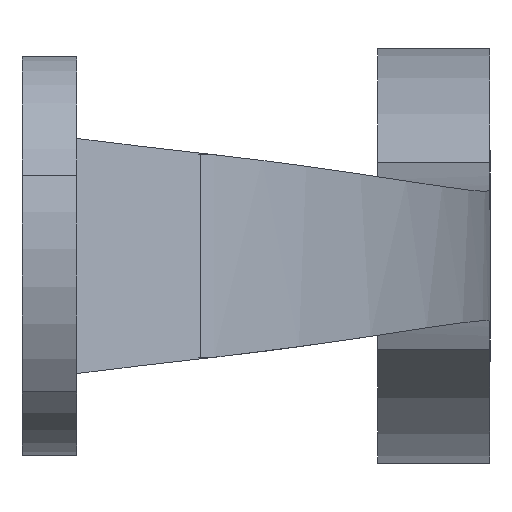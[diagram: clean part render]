
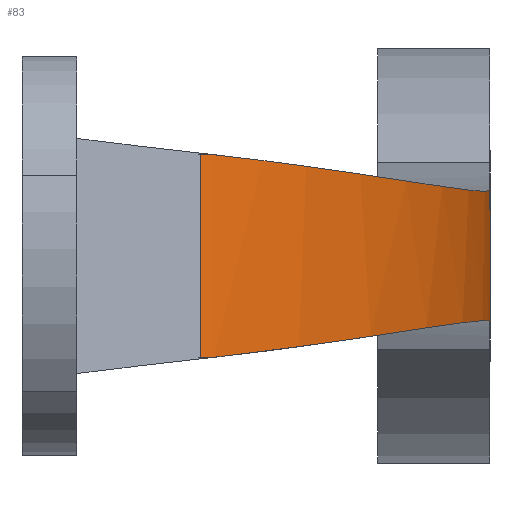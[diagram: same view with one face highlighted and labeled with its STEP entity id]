
A CAD part, left-side view. The second image highlights one B-rep face of the part: STEP entity #83.
In plain terms, the highlighted cylindrical face has radius 35.3 mm (diameter 70.6 mm), a partial arc.
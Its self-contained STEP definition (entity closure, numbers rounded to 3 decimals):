
#83 = ADVANCED_FACE( '', ( #186 ), #187, .T. );
#186 = FACE_OUTER_BOUND( '', #314, .T. );
#187 = CYLINDRICAL_SURFACE( '', #315, 35.3 );
#314 = EDGE_LOOP( '', ( #430, #431, #432, #433, #434, #435 ) );
#315 = AXIS2_PLACEMENT_3D( '', #436, #437, #438 );
#430 = ORIENTED_EDGE( '', *, *, #751, .T. );
#431 = ORIENTED_EDGE( '', *, *, #752, .T. );
#432 = ORIENTED_EDGE( '', *, *, #753, .T. );
#433 = ORIENTED_EDGE( '', *, *, #754, .F. );
#434 = ORIENTED_EDGE( '', *, *, #755, .T. );
#435 = ORIENTED_EDGE( '', *, *, #756, .T. );
#436 = CARTESIAN_POINT( '', ( 27.539, 9.57, 11.4 ) );
#437 = DIRECTION( '', ( 0., 0., 1. ) );
#438 = DIRECTION( '', ( -1., 0., 0. ) );
#751 = EDGE_CURVE( '', #875, #876, #877, .T. );
#752 = EDGE_CURVE( '', #876, #878, #879, .T. );
#753 = EDGE_CURVE( '', #878, #880, #881, .T. );
#754 = EDGE_CURVE( '', #882, #880, #883, .T. );
#755 = EDGE_CURVE( '', #882, #884, #885, .T. );
#756 = EDGE_CURVE( '', #884, #875, #886, .T. );
#875 = VERTEX_POINT( '', #1059 );
#876 = VERTEX_POINT( '', #1060 );
#877 = LINE( '', #1061, #1062 );
#878 = VERTEX_POINT( '', #1063 );
#879 = B_SPLINE_CURVE_WITH_KNOTS( '', 3, ( #1064, #1065, #1066, #1067 ), .UNSPECIFIED., .F., .F., ( 4, 4 ), ( 0., 0.001 ), .UNSPECIFIED. );
#880 = VERTEX_POINT( '', #1068 );
#881 = B_SPLINE_CURVE_WITH_KNOTS( '', 3, ( #1069, #1070, #1071, #1072, #1073, #1074, #1075, #1076, #1077, #1078, #1079, #1080, #1081, #1082, #1083, #1084, #1085, #1086 ), .UNSPECIFIED., .F., .F., ( 4, 2, 2, 2, 2, 2, 2, 2, 4 ), ( 0., 0.008, 0.011, 0.013, 0.017, 0.021, 0.023, 0.025, 0.034 ), .UNSPECIFIED. );
#882 = VERTEX_POINT( '', #1087 );
#883 = LINE( '', #1088, #1089 );
#884 = VERTEX_POINT( '', #1090 );
#885 = B_SPLINE_CURVE_WITH_KNOTS( '', 3, ( #1091, #1092, #1093, #1094, #1095, #1096, #1097, #1098, #1099, #1100, #1101, #1102, #1103, #1104, #1105, #1106 ), .UNSPECIFIED., .F., .F., ( 4, 2, 2, 2, 2, 2, 2, 4 ), ( 0., 0.008, 0.011, 0.013, 0.017, 0.021, 0.025, 0.034 ), .UNSPECIFIED. );
#886 = B_SPLINE_CURVE_WITH_KNOTS( '', 3, ( #1107, #1108, #1109, #1110 ), .UNSPECIFIED., .F., .F., ( 4, 4 ), ( 0., 0.001 ), .UNSPECIFIED. );
#1059 = CARTESIAN_POINT( '', ( -1.961, -9.816, 5.655 ) );
#1060 = CARTESIAN_POINT( '', ( -1.961, -9.816, -5.655 ) );
#1061 = CARTESIAN_POINT( '', ( -1.961, -9.816, 11.4 ) );
#1062 = VECTOR( '', #1458, 1000. );
#1063 = CARTESIAN_POINT( '', ( -1.464, -10.552, -5.572 ) );
#1064 = CARTESIAN_POINT( '', ( -1.961, -9.816, -5.655 ) );
#1065 = CARTESIAN_POINT( '', ( -1.798, -10.063, -5.628 ) );
#1066 = CARTESIAN_POINT( '', ( -1.633, -10.309, -5.6 ) );
#1067 = CARTESIAN_POINT( '', ( -1.464, -10.552, -5.572 ) );
#1068 = CARTESIAN_POINT( '', ( 27.539, -25.73, -3.607 ) );
#1069 = CARTESIAN_POINT( '', ( -1.464, -10.552, -5.572 ) );
#1070 = CARTESIAN_POINT( '', ( 0.164, -12.899, -5.304 ) );
#1071 = CARTESIAN_POINT( '', ( 2.039, -15.002, -5.023 ) );
#1072 = CARTESIAN_POINT( '', ( 4.681, -17.339, -4.689 ) );
#1073 = CARTESIAN_POINT( '', ( 5.225, -17.792, -4.623 ) );
#1074 = CARTESIAN_POINT( '', ( 6.344, -18.667, -4.494 ) );
#1075 = CARTESIAN_POINT( '', ( 6.921, -19.091, -4.43 ) );
#1076 = CARTESIAN_POINT( '', ( 8.679, -20.303, -4.247 ) );
#1077 = CARTESIAN_POINT( '', ( 9.89, -21.034, -4.135 ) );
#1078 = CARTESIAN_POINT( '', ( 12.388, -22.344, -3.935 ) );
#1079 = CARTESIAN_POINT( '', ( 13.675, -22.924, -3.848 ) );
#1080 = CARTESIAN_POINT( '', ( 15.664, -23.68, -3.739 ) );
#1081 = CARTESIAN_POINT( '', ( 16.336, -23.913, -3.707 ) );
#1082 = CARTESIAN_POINT( '', ( 17.701, -24.339, -3.65 ) );
#1083 = CARTESIAN_POINT( '', ( 18.393, -24.532, -3.627 ) );
#1084 = CARTESIAN_POINT( '', ( 21.853, -25.386, -3.53 ) );
#1085 = CARTESIAN_POINT( '', ( 24.671, -25.73, -3.527 ) );
#1086 = CARTESIAN_POINT( '', ( 27.539, -25.73, -3.607 ) );
#1087 = CARTESIAN_POINT( '', ( 27.539, -25.73, 3.607 ) );
#1088 = CARTESIAN_POINT( '', ( 27.539, -25.73, 11.4 ) );
#1089 = VECTOR( '', #1459, 1000. );
#1090 = CARTESIAN_POINT( '', ( -1.464, -10.552, 5.572 ) );
#1091 = CARTESIAN_POINT( '', ( 27.539, -25.73, 3.607 ) );
#1092 = CARTESIAN_POINT( '', ( 24.671, -25.73, 3.527 ) );
#1093 = CARTESIAN_POINT( '', ( 21.861, -25.386, 3.531 ) );
#1094 = CARTESIAN_POINT( '', ( 18.42, -24.539, 3.626 ) );
#1095 = CARTESIAN_POINT( '', ( 17.735, -24.349, 3.649 ) );
#1096 = CARTESIAN_POINT( '', ( 16.373, -23.925, 3.705 ) );
#1097 = CARTESIAN_POINT( '', ( 15.693, -23.691, 3.738 ) );
#1098 = CARTESIAN_POINT( '', ( 13.694, -22.933, 3.846 ) );
#1099 = CARTESIAN_POINT( '', ( 12.403, -22.351, 3.934 ) );
#1100 = CARTESIAN_POINT( '', ( 9.903, -21.041, 4.134 ) );
#1101 = CARTESIAN_POINT( '', ( 8.694, -20.312, 4.246 ) );
#1102 = CARTESIAN_POINT( '', ( 6.359, -18.705, 4.489 ) );
#1103 = CARTESIAN_POINT( '', ( 5.228, -17.822, 4.62 ) );
#1104 = CARTESIAN_POINT( '', ( 2.042, -15.006, 5.022 ) );
#1105 = CARTESIAN_POINT( '', ( 0.164, -12.898, 5.304 ) );
#1106 = CARTESIAN_POINT( '', ( -1.464, -10.552, 5.572 ) );
#1107 = CARTESIAN_POINT( '', ( -1.464, -10.552, 5.572 ) );
#1108 = CARTESIAN_POINT( '', ( -1.633, -10.309, 5.6 ) );
#1109 = CARTESIAN_POINT( '', ( -1.798, -10.063, 5.628 ) );
#1110 = CARTESIAN_POINT( '', ( -1.961, -9.816, 5.655 ) );
#1458 = DIRECTION( '', ( 0., 0., -1. ) );
#1459 = DIRECTION( '', ( 0., 0., -1. ) );
